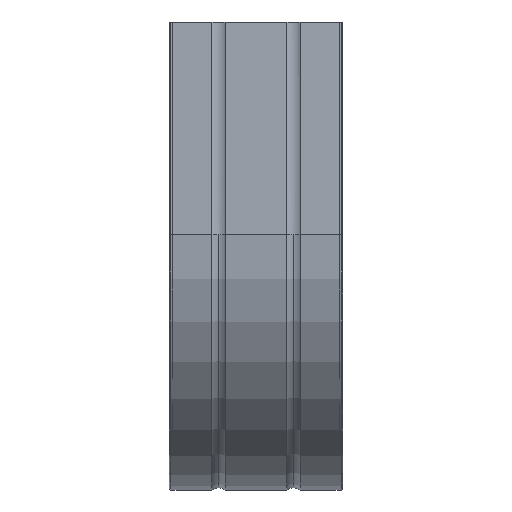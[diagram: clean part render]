
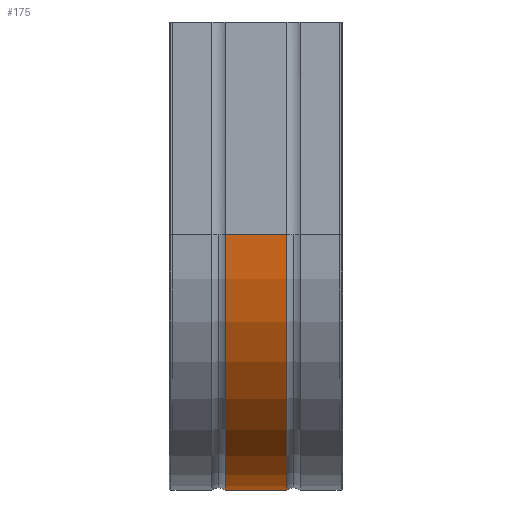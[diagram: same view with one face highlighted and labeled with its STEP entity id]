
A CAD part, front view. The second image highlights one B-rep face of the part: STEP entity #175.
In plain terms, the highlighted cylindrical face has radius 150 mm (diameter 300 mm), a partial arc.
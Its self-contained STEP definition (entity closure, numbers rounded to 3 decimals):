
#5 = DIRECTION ( 'NONE',  ( 0., 0., -1. ) ) ;
#38 = CARTESIAN_POINT ( 'NONE',  ( -18., 150., -275. ) ) ;
#105 = VERTEX_POINT ( 'NONE', #1230 ) ;
#143 = DIRECTION ( 'NONE',  ( 0., 0., -1. ) ) ;
#175 = ADVANCED_FACE ( 'NONE', ( #1040 ), #2274, .T. ) ;
#191 = DIRECTION ( 'NONE',  ( 1., 0., 0. ) ) ;
#324 = CARTESIAN_POINT ( 'NONE',  ( -18., 150., -275. ) ) ;
#403 = CARTESIAN_POINT ( 'NONE',  ( -18., 0., -125. ) ) ;
#413 = CARTESIAN_POINT ( 'NONE',  ( 18., 0., -125. ) ) ;
#440 = ORIENTED_EDGE ( 'NONE', *, *, #2094, .T. ) ;
#477 = ORIENTED_EDGE ( 'NONE', *, *, #613, .F. ) ;
#613 = EDGE_CURVE ( 'NONE', #725, #2414, #1650, .T. ) ;
#725 = VERTEX_POINT ( 'NONE', #413 ) ;
#851 = CARTESIAN_POINT ( 'NONE',  ( 0., 150., -125. ) ) ;
#1037 = ORIENTED_EDGE ( 'NONE', *, *, #1958, .F. ) ;
#1040 = FACE_OUTER_BOUND ( 'NONE', #2421, .T. ) ;
#1170 = CIRCLE ( 'NONE', #1517, 150. ) ;
#1185 = CARTESIAN_POINT ( 'NONE',  ( -18., 150., -125. ) ) ;
#1230 = CARTESIAN_POINT ( 'NONE',  ( -18., 0., -125. ) ) ;
#1232 = DIRECTION ( 'NONE',  ( 1., 0., 0. ) ) ;
#1297 = AXIS2_PLACEMENT_3D ( 'NONE', #851, #191, #1873 ) ;
#1391 = LINE ( 'NONE', #403, #2546 ) ;
#1444 = DIRECTION ( 'NONE',  ( 1., 0., 0. ) ) ;
#1488 = DIRECTION ( 'NONE',  ( 1., 0., 0. ) ) ;
#1517 = AXIS2_PLACEMENT_3D ( 'NONE', #1185, #1232, #143 ) ;
#1548 = CARTESIAN_POINT ( 'NONE',  ( 18., 150., -275. ) ) ;
#1650 = CIRCLE ( 'NONE', #2441, 150. ) ;
#1837 = DIRECTION ( 'NONE',  ( 1., 0., 0. ) ) ;
#1873 = DIRECTION ( 'NONE',  ( 0., 0., -1. ) ) ;
#1958 = EDGE_CURVE ( 'NONE', #105, #725, #1391, .T. ) ;
#2086 = LINE ( 'NONE', #38, #2409 ) ;
#2094 = EDGE_CURVE ( 'NONE', #2127, #2414, #2086, .T. ) ;
#2127 = VERTEX_POINT ( 'NONE', #324 ) ;
#2274 = CYLINDRICAL_SURFACE ( 'NONE', #1297, 150. ) ;
#2409 = VECTOR ( 'NONE', #1488, 1000. ) ;
#2414 = VERTEX_POINT ( 'NONE', #1548 ) ;
#2421 = EDGE_LOOP ( 'NONE', ( #1037, #2696, #440, #477 ) ) ;
#2441 = AXIS2_PLACEMENT_3D ( 'NONE', #2477, #1444, #5 ) ;
#2477 = CARTESIAN_POINT ( 'NONE',  ( 18., 150., -125. ) ) ;
#2546 = VECTOR ( 'NONE', #1837, 1000. ) ;
#2591 = EDGE_CURVE ( 'NONE', #105, #2127, #1170, .T. ) ;
#2696 = ORIENTED_EDGE ( 'NONE', *, *, #2591, .T. ) ;
